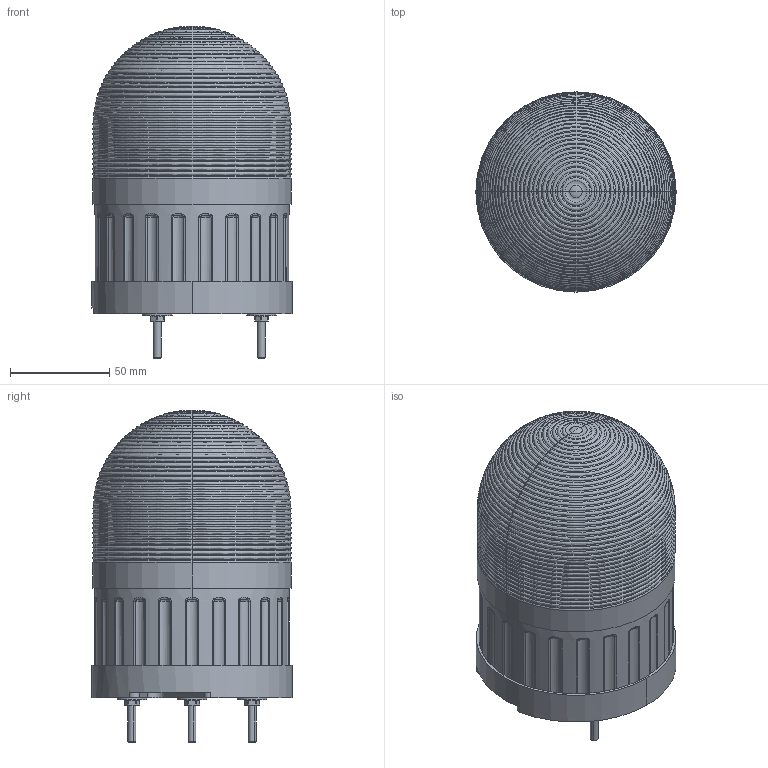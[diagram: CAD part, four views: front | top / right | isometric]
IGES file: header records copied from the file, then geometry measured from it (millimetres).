
Start section: IGES file generated by C3D Converter 1.6 translator by C3D Labs., translator version IGESOUT-5.1.
Global section: file name: C:\Users\Ìîíî\OneDrive\Desktop\øòóêè\Ñâåòîñèãíàëüíûé ìàÿ÷îê\Ñâåòîñèãíàëüíûé ìàÿ÷îê.igs; preprocessor: 1.0; author: Ìîíî; organization: unknown; date: -17760617:210830; units: millimetre
Bounding box: 101 x 101 x 167.5 mm (x, y, z)
Volume: 549470.7 mm3; surface area: 120410 mm2
Topology: 12 solids, 12 shells, 1374 faces, 3417 edges, 1908 vertices
Faces by surface type: revolution 954, bspline 420
